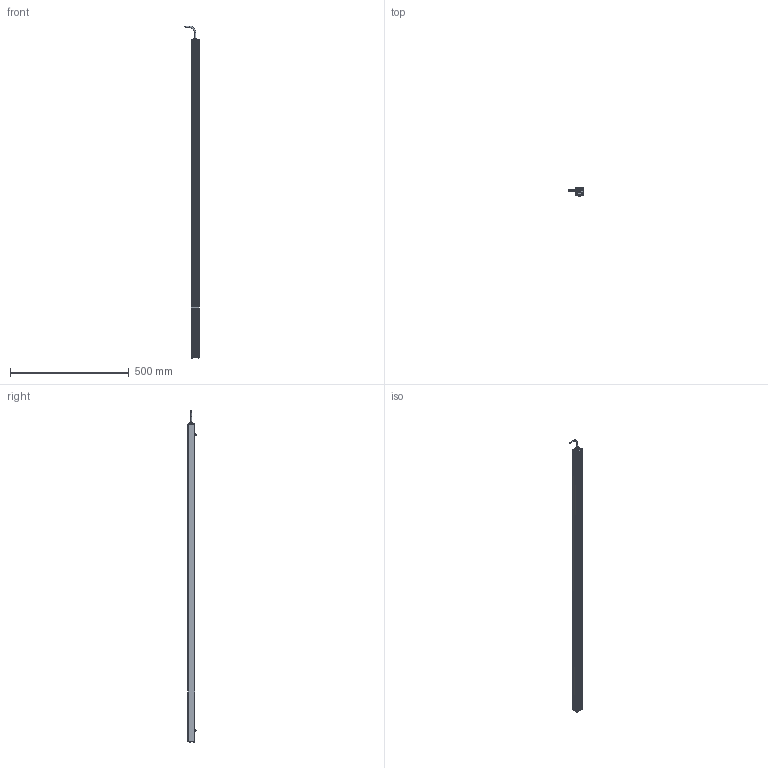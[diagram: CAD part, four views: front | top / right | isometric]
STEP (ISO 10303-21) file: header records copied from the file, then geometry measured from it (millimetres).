
FILE_DESCRIPTION (( 'STEP AP214' ), '1' );
FILE_NAME ('AL150XXXX_AL150306.stp', '2021-04-29T15:41:40', ( '' ), ( '' ), 'SwSTEP 2.0', 'SolidWorks 2018', '' );
FILE_SCHEMA (( 'AUTOMOTIVE_DESIGN' ));
Length unit declared in the file: inch
Products named in the file (12): CHM6x8_91460A312; Part1^AL150XXXX; AL150XXXX_AL150306; HN-M6_90592A016; 1157 (no strap); 116-02-006; 092408_TRUNCATED; 116-02-007; 150-01-005-XXX_150-01-005-306; 150-03-006-XXXX_150-03-006-306; 093145_93701A253; Part2^AL150XXXX
Assembly tree (18 placements, depth 2):
  Part1^AL150XXXX
  AL150XXXX_AL150306
    150-01-005-XXX_150-01-005-306
    116-02-006
    093145_93701A253  x8
    HN-M6_90592A016  x2
    CHM6x8_91460A312  x2
    150-03-006-XXXX_150-03-006-306
    116-02-007
    1157 (no strap)
    092408_TRUNCATED
  Part2^AL150XXXX
Bounding box: 60.68 x 33.84 x 1397.18 mm (x, y, z)
Volume: 416179.4 mm3; surface area: 440457.5 mm2
Topology: 26 solids, 26 shells, 1306 faces, 3436 edges, 2127 vertices
Faces by surface type: cylinder 805, cone 249, plane 153, torus 59, bspline 32, sphere 8
Entity records: 18285 total; most frequent: CARTESIAN_POINT 6069, ORIENTED_EDGE 2496, DIRECTION 2311, EDGE_CURVE 1248, AXIS2_PLACEMENT_3D 881, VERTEX_POINT 800, LINE 549, VECTOR 549
